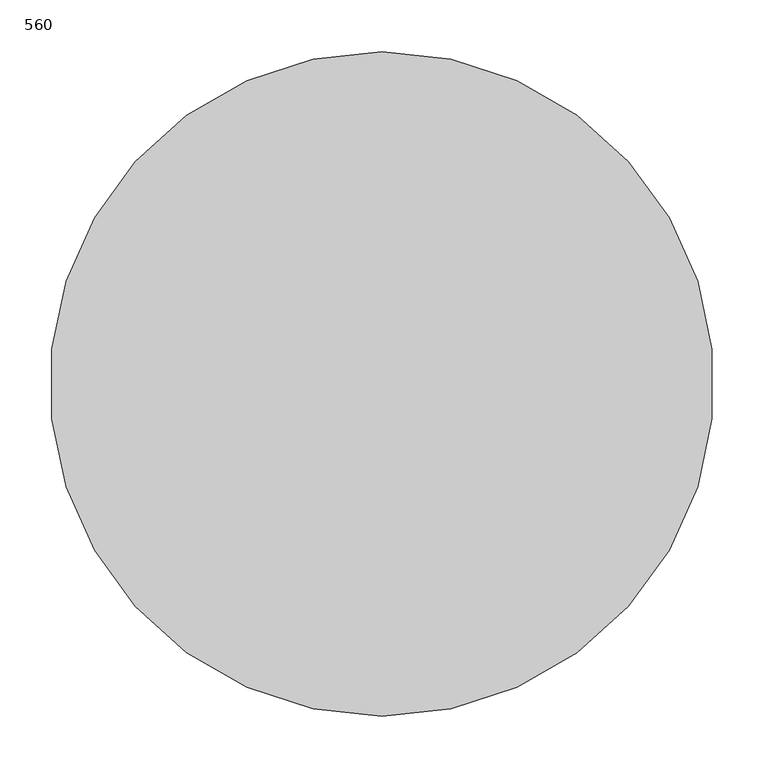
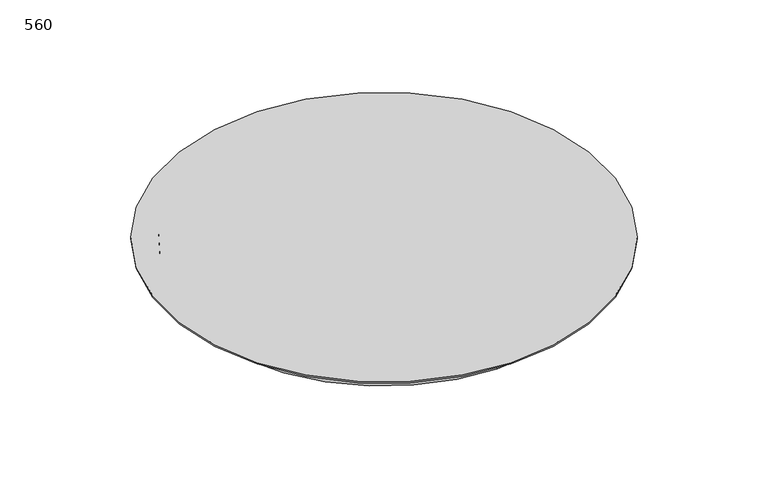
"""IFC4 building model written with IfcOpenShell, lengths in millimetres: duct fitting geometry, VE-Zagnieżdżone-Akcesorium-ParaForma-Harmann-DAF-Króciec_Przyłączeniowy : 560."""

from ifc_helpers import new_model, si_unit, point, frame, origin, origin_2d, place, context, project, spatial, circle_curve, trimmed, segment, composite_curve, outline, extrude, source, transform, mapped, element, save


def duct_fitting_560_c8fad201(model_context):
    return source(origin(), model_context, "Body", "SweptSolid", [
        extrude(outline(composite_curve([segment(trimmed(circle_curve(origin_2d(), 286.0), [point((0.0, -286.0))], [point((0.0, 286.0))], False, "CARTESIAN"), True, "CONTINUOUS"), segment(trimmed(circle_curve(origin_2d(), 286.0), [point((0.0, 286.0))], [point((0.0, -286.0))], False, "CARTESIAN"), True, "CONTINUOUS")], self_intersect=False)), frame((0.0, 0.0, -30.0), z_axis=(0.0, 0.0, 1.0), x_axis=(1.0, 0.0, 0.0)), (0.0, 0.0, 1.0), 28.0),
        extrude(outline(composite_curve([segment(trimmed(circle_curve(origin_2d(), 320.0), [point((0.0, -320.0))], [point((0.0, 320.0))], False, "CARTESIAN"), True, "CONTINUOUS"), segment(trimmed(circle_curve(origin_2d(), 320.0), [point((0.0, 320.0))], [point((0.0, -320.0))], False, "CARTESIAN"), True, "CONTINUOUS")], self_intersect=False)), frame((0.0, 0.0, -2.0), z_axis=(0.0, 0.0, 1.0), x_axis=(1.0, 0.0, 0.0)), (0.0, 0.0, 1.0), 2.0),
    ])


if __name__ == "__main__":
    model = new_model("IFC4")
    model_context = context("Model", 3, world=origin())
    ifc_project = project(units=[si_unit("LENGTHUNIT", "METRE", prefix="MILLI")], contexts=[model_context])
    site = spatial("IfcSite", under=ifc_project)
    building = spatial("IfcBuilding", under=site)
    placement = place(None, origin())
    duct_fitting_560_shape = duct_fitting_560_c8fad201(model_context)
    element("IfcDuctFitting", 1, ObjectType="VE-Zagnieżdżone-Akcesorium-ParaForma-Harmann-DAF-Króciec_Przyłączeniowy : 560", at=placement, inside=building, context=model_context, shape_type="MappedRepresentation", body=[
        mapped(duct_fitting_560_shape, transform((0.0, 0.0, 0.0), x_axis=(1.0, 0.0, 0.0), y_axis=(0.0, 1.0, 0.0), z_axis=(0.0, 0.0, 1.0))),
    ])
    save(model, "model.ifc")
